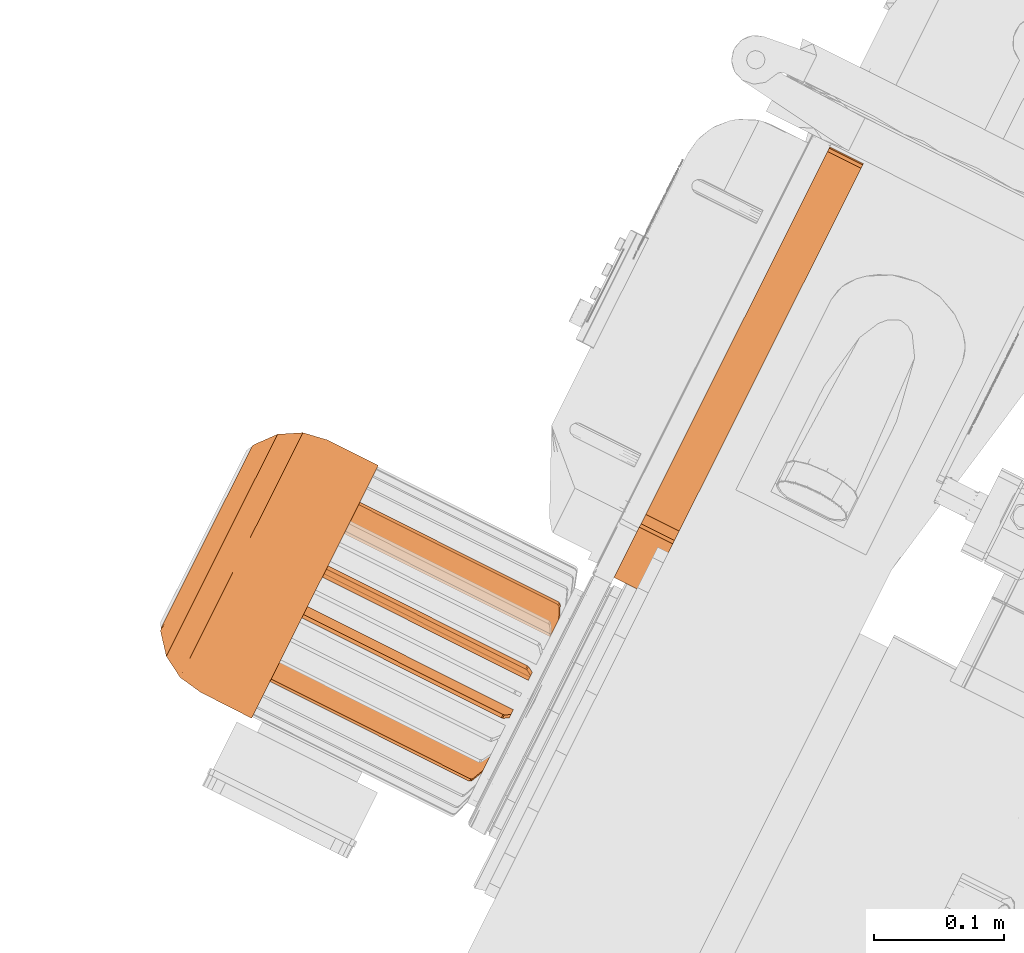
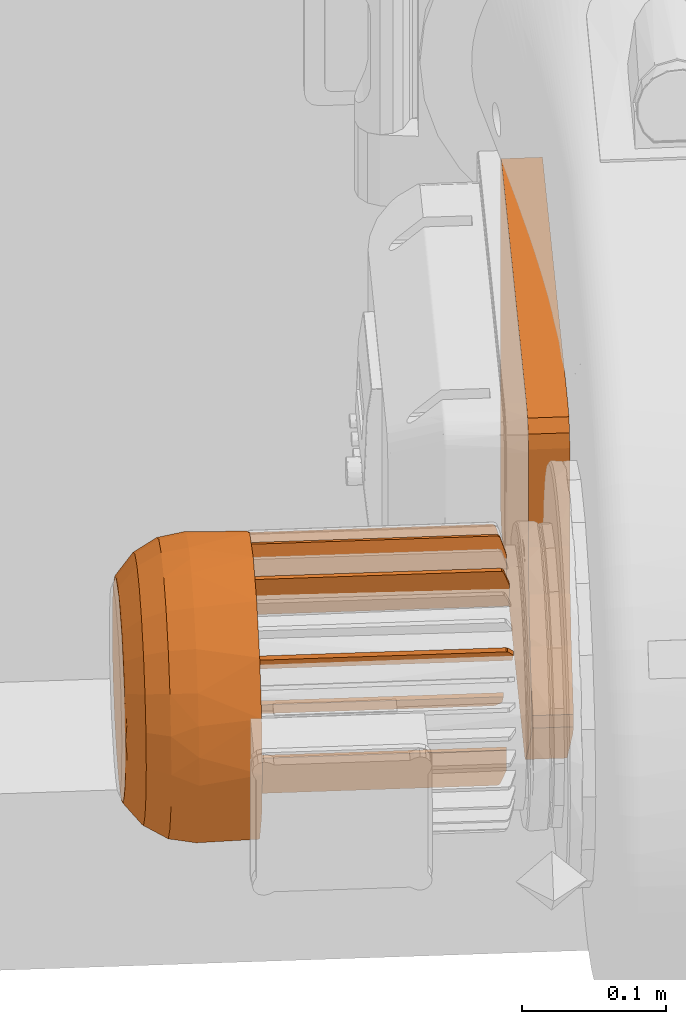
# One storey, part 181 of 206: 8 proxies.
"""IFC2X3 building model written with IfcOpenShell, lengths in metres."""

from ifc_helpers import new_model, si_unit, derived_unit, direction, frame, origin, place, context, subcontext, project, spatial, faceted_brep, source, transform, mapped, material, type_object, type_shapes, element, save


model = new_model("IFC2X3")

# Units and contexts
model_context = context("Model", 3, precision=5.2338327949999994e-05, world=origin(), true_north=direction((0.0, 1.0)))
body_context = subcontext(model_context, "Body", "Model", "MODEL_VIEW")
ifc_project = project(units=[si_unit("LENGTHUNIT", "METRE"), si_unit("AREAUNIT", "SQUARE_METRE"), si_unit("VOLUMEUNIT", "CUBIC_METRE"), si_unit("MASSUNIT", "GRAM", prefix="KILO"), si_unit("PLANEANGLEUNIT", "RADIAN"), derived_unit("THERMALTRANSMITTANCEUNIT", [(si_unit("MASSUNIT", "GRAM", prefix="KILO"), 1), (si_unit("THERMODYNAMICTEMPERATUREUNIT", "KELVIN"), -1), (si_unit("TIMEUNIT", "SECOND"), -3)])], contexts=[model_context])

# Site, building, storey
site_placement = place(None, frame((0.0, 0.0, 0.0), z_axis=(0.0, 0.0, 1.0), x_axis=(0.8939966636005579, -0.4480736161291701, 0.0)))
site = spatial("IfcSite", under=ifc_project, at=site_placement, Name="Default", CompositionType="ELEMENT")
building_placement = place(site_placement, origin())
building = spatial("IfcBuilding", under=site, at=building_placement, CompositionType="ELEMENT")
storey_placement = place(building_placement, origin())
storey = spatial("IfcBuildingStorey", under=building, at=storey_placement, Name="Erdgeschoss", CompositionType="ELEMENT", Elevation=0.0)

# Proxies
ifc_material_1 = material(Name="IfcSurfaceStyle #623543")
building_element_proxy_type_1 = type_object("IfcBuildingElementProxyType", Name="BuildingElementProxy 124:BuildingElementProxy 124", PredefinedType="NOTDEFINED", material=ifc_material_1)
shared_shape_1 = source(origin(), body_context, "Body", "Brep", [
    faceted_brep([(21.308483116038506, 4.186292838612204, 0.758362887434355), (21.308483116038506, 4.182203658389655, 0.7789205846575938), (21.308483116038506, 4.183350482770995, 0.7577776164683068), (21.308483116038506, 4.179261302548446, 0.7783353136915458), (21.304532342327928, 4.179799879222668, 0.7910051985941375), (21.301675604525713, 4.179393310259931, 0.793049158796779), (21.130911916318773, 4.186292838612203, 0.758362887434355), (21.130911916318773, 4.179393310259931, 0.7930491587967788), (21.302899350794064, 4.1794442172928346, 0.7927932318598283), (21.303910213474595, 4.179588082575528, 0.7920699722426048), (21.130911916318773, 4.183350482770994, 0.7577776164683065), (21.130911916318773, 4.176450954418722, 0.7924638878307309), (21.302899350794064, 4.176501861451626, 0.7922079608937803), (21.303910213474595, 4.1766457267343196, 0.7914847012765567), (21.304532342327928, 4.17685752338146, 0.7904199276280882), (21.301675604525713, 4.176450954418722, 0.7924638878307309), (21.301675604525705, 4.178902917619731, 0.7929516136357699)], [[[0, 1, 2]], [[2, 1, 3]], [[4, 1, 5]], [[5, 1, 0]], [[5, 0, 6]], [[6, 7, 5]], [[5, 8, 4]], [[4, 8, 9]], [[0, 2, 6]], [[6, 2, 10]], [[7, 6, 11]], [[11, 6, 10]], [[12, 13, 8]], [[8, 13, 9]], [[13, 14, 9]], [[9, 14, 4]], [[3, 1, 14]], [[14, 1, 4]], [[10, 2, 15]], [[15, 2, 3]], [[15, 3, 14]], [[13, 12, 14]], [[14, 12, 15]], [[15, 11, 10]], [[5, 7, 16]], [[16, 7, 11]], [[16, 11, 15]], [[15, 12, 16]], [[16, 12, 8]], [[16, 8, 5]]]),
])
type_shapes(building_element_proxy_type_1, [shared_shape_1])
proxy_1_placement = place(storey_placement, origin())
element("IfcBuildingElementProxy", 1, at=proxy_1_placement, inside=storey, type_object=building_element_proxy_type_1, material=ifc_material_1, Name="BuildingElementProxy 124", context=body_context, shape_type="MappedRepresentation", body=[
    mapped(shared_shape_1, transform((0.0, 0.0, 0.0), scale=1.0)),
])
building_element_proxy_type_2 = type_object("IfcBuildingElementProxyType", Name="BuildingElementProxy 126:BuildingElementProxy 126", PredefinedType="NOTDEFINED", material=ifc_material_1)
shared_shape_2 = source(origin(), body_context, "Body", "Brep", [
    faceted_brep([(21.03727812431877, 4.198958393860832, 0.7659323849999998), (21.03727812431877, 4.210191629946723, 0.7651289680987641), (21.03727812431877, 4.187725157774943, 0.765128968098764), (21.03727812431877, 4.166168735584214, 0.7587994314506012), (21.03727812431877, 4.231748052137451, 0.7587994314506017), (21.03727812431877, 4.147268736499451, 0.7466531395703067), (21.03727812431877, 4.250648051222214, 0.7466531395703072), (21.03727812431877, 4.1325563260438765, 0.7296741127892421), (21.03727812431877, 4.265360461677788, 0.7296741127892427), (21.03727812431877, 4.120829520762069, 0.6982333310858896), (21.03727812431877, 4.2746933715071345, 0.7092378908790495), (21.03727812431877, 4.277890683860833, 0.6870000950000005), (21.03727812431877, 4.123223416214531, 0.6647622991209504), (21.03727812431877, 4.2746933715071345, 0.6647622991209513), (21.03727812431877, 4.1325563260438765, 0.6443260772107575), (21.03727812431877, 4.265360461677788, 0.6443260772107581), (21.03727812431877, 4.147268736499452, 0.6273470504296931), (21.03727812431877, 4.250648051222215, 0.6273470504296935), (21.03727812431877, 4.166168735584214, 0.6152007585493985), (21.03727812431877, 4.231748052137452, 0.6152007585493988), (21.03727812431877, 4.187725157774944, 0.6088712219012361), (21.03727812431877, 4.210191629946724, 0.6088712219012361), (21.03727812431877, 4.198958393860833, 0.6080678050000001), (21.086911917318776, 4.214470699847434, 0.5791096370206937), (21.06762802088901, 4.213983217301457, 0.582500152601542), (21.086911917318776, 4.244238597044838, 0.5878502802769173), (21.06762802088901, 4.24281564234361, 0.5909661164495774), (21.086911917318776, 4.2703381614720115, 0.6046234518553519), (21.06762802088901, 4.268095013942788, 0.6072121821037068), (21.086911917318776, 4.29065496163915, 0.6280702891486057), (21.06762802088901, 4.2877733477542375, 0.6299221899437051), (21.086911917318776, 4.303543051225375, 0.656291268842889), (21.06762802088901, 4.300256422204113, 0.657256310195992), (21.086911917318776, 4.307958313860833, 0.6870000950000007), (21.06762802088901, 4.304532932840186, 0.6870000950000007), (21.086911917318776, 4.303543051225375, 0.7177089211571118), (21.06762802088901, 4.300256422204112, 0.7167438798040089), (21.086911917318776, 4.290654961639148, 0.745929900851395), (21.06762802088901, 4.2877733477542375, 0.7440780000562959), (21.086911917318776, 4.27033816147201, 0.7693767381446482), (21.06762802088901, 4.268095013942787, 0.7667880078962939), (21.086911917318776, 4.244238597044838, 0.7861499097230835), (21.06762802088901, 4.242815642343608, 0.7830340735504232), (21.086911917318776, 4.214470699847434, 0.7948905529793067), (21.06762802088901, 4.213983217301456, 0.7915000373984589), (21.086911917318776, 4.198958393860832, 0.796000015), (21.06762802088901, 4.183933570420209, 0.7915000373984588), (21.086911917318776, 4.1834460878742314, 0.7948905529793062), (21.086911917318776, 4.153678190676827, 0.7861499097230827), (21.086911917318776, 4.198958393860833, 0.5780001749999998), (21.06762802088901, 4.18393357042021, 0.5825001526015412), (21.050701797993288, 4.185336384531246, 0.5922569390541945), (21.050701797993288, 4.159195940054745, 0.5999324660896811), (21.038205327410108, 4.165461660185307, 0.6136524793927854), (21.038205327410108, 4.1461541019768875, 0.6260606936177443), (21.086911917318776, 4.183446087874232, 0.5791096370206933), (21.06762802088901, 4.155101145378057, 0.5909661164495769), (21.050701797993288, 4.136276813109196, 0.6146616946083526), (21.038205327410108, 4.131124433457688, 0.6434058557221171), (21.086911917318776, 4.153678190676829, 0.5878502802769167), (21.06762802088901, 4.129821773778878, 0.6072121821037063), (21.050701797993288, 4.1184357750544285, 0.6352513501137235), (21.038205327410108, 4.121590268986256, 0.6642827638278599), (21.038205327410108, 4.118324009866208, 0.6870000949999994), (21.038205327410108, 4.121590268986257, 0.7097174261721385), (21.038205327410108, 4.131124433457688, 0.7305943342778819), (21.038205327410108, 4.146154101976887, 0.7479394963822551), (21.038205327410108, 4.165461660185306, 0.7603477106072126), (21.038205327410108, 4.187482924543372, 0.7668137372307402), (21.038205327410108, 4.210433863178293, 0.7668137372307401), (21.086911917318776, 4.127578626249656, 0.6046234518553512), (21.06762802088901, 4.110143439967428, 0.6299221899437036), (21.050701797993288, 4.107118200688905, 0.6600333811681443), (21.086911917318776, 4.1072618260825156, 0.6280702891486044), (21.06762802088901, 4.0976603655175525, 0.6572563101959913), (21.050701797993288, 4.103240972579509, 0.6870000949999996), (21.086911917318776, 4.094373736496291, 0.656291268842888), (21.086911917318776, 4.090236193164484, 0.679224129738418), (21.06762802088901, 4.093383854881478, 0.6870000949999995), (21.086911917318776, 4.091067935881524, 0.7025124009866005), (21.06762802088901, 4.0976603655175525, 0.7167438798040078), (21.086911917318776, 4.096830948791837, 0.7250916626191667), (21.06762802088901, 4.110143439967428, 0.7440780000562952), (21.086911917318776, 4.1072618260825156, 0.7459299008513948), (21.06762802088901, 4.129821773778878, 0.7667880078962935), (21.086911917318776, 4.1275786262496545, 0.7693767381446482), (21.06762802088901, 4.1551011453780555, 0.783034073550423), (21.038205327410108, 4.187482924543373, 0.6071864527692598), (21.050701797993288, 4.212580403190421, 0.592256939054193), (21.038205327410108, 4.210433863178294, 0.6071864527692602), (21.038205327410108, 4.232455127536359, 0.6136524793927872), (21.038205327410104, 4.2517626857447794, 0.6260606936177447), (21.038205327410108, 4.266792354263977, 0.643405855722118), (21.038205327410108, 4.276326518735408, 0.664282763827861), (21.038205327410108, 4.2795927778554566, 0.6870000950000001), (21.038205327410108, 4.276326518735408, 0.7097174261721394), (21.038205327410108, 4.266792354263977, 0.7305943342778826), (21.038205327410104, 4.2517626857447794, 0.7479394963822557), (21.038205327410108, 4.232455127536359, 0.7603477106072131), (21.050701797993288, 4.107118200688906, 0.713966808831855), (21.050701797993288, 4.238720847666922, 0.5999324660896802), (21.050701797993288, 4.26163997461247, 0.6146616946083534), (21.050701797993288, 4.279481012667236, 0.6352513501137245), (21.050701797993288, 4.290798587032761, 0.6600333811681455), (21.050701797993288, 4.294675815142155, 0.6870000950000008), (21.050701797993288, 4.290798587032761, 0.7139668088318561), (21.050701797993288, 4.279481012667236, 0.7387488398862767), (21.050701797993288, 4.261639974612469, 0.7593384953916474), (21.050701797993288, 4.2387208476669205, 0.7740677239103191), (21.050701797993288, 4.212580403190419, 0.7817432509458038), (21.050701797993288, 4.1853363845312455, 0.781743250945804), (21.050701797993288, 4.159195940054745, 0.7740677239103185), (21.050701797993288, 4.136276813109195, 0.7593384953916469), (21.050701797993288, 4.1184357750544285, 0.7387488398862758), (21.130911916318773, 4.240670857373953, 0.7877028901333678), (21.130911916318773, 4.198958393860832, 0.796000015), (21.130911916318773, 4.276032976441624, 0.7640746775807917), (21.130911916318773, 4.2996611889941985, 0.7287125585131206), (21.130911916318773, 4.307958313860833, 0.6870000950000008), (21.130911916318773, 4.2996611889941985, 0.6452876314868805), (21.130911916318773, 4.276032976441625, 0.6099255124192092), (21.130911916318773, 4.240670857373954, 0.5862972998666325), (21.130911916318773, 4.198958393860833, 0.578000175), (21.130911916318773, 4.157245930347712, 0.5862972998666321), (21.130911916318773, 4.121883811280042, 0.6099255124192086), (21.130911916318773, 4.098255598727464, 0.6452876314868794), (21.130911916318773, 4.089958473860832, 0.6870000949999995), (21.130911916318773, 4.098255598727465, 0.7287125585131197), (21.130911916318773, 4.121883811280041, 0.7640746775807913), (21.130911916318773, 4.157245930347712, 0.7877028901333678)], [[[0, 1, 2]], [[2, 1, 3]], [[1, 4, 3]], [[3, 4, 5]], [[4, 6, 5]], [[5, 6, 7]], [[6, 8, 7]], [[7, 8, 9]], [[8, 10, 9]], [[9, 10, 11]], [[9, 11, 12]], [[12, 11, 13]], [[12, 13, 14]], [[14, 13, 15]], [[14, 15, 16]], [[16, 15, 17]], [[16, 17, 18]], [[18, 17, 19]], [[18, 19, 20]], [[20, 19, 21]], [[20, 21, 22]], [[23, 24, 25]], [[25, 24, 26]], [[25, 26, 27]], [[27, 26, 28]], [[27, 28, 29]], [[29, 28, 30]], [[29, 30, 31]], [[31, 30, 32]], [[31, 32, 33]], [[33, 32, 34]], [[33, 34, 35]], [[35, 34, 36]], [[35, 36, 37]], [[37, 36, 38]], [[37, 38, 39]], [[39, 38, 40]], [[39, 40, 41]], [[41, 40, 42]], [[41, 42, 43]], [[43, 42, 44]], [[43, 44, 45]], [[45, 44, 46]], [[45, 46, 47]], [[47, 46, 48]], [[23, 49, 24]], [[24, 49, 50]], [[24, 50, 51]], [[51, 50, 52]], [[51, 52, 53]], [[53, 52, 54]], [[53, 54, 16]], [[16, 54, 14]], [[49, 55, 50]], [[50, 55, 56]], [[50, 56, 52]], [[52, 56, 57]], [[52, 57, 54]], [[54, 57, 58]], [[54, 58, 14]], [[14, 58, 12]], [[55, 59, 56]], [[56, 59, 60]], [[56, 60, 57]], [[57, 60, 61]], [[57, 61, 58]], [[58, 61, 62]], [[58, 62, 12]], [[12, 62, 63]], [[12, 63, 9]], [[9, 63, 64]], [[9, 64, 7]], [[7, 64, 65]], [[7, 65, 5]], [[5, 65, 66]], [[5, 66, 3]], [[3, 66, 67]], [[3, 67, 2]], [[2, 67, 68]], [[2, 68, 0]], [[0, 68, 69]], [[0, 69, 1]], [[1, 69, 4]], [[59, 70, 60]], [[60, 70, 71]], [[60, 71, 61]], [[61, 71, 72]], [[61, 72, 62]], [[62, 72, 63]], [[70, 73, 71]], [[71, 73, 74]], [[71, 74, 72]], [[72, 74, 75]], [[72, 75, 63]], [[63, 75, 64]], [[73, 76, 74]], [[74, 76, 77]], [[74, 77, 78]], [[78, 77, 79]], [[78, 79, 80]], [[80, 79, 81]], [[80, 81, 82]], [[82, 81, 83]], [[82, 83, 84]], [[84, 83, 85]], [[84, 85, 86]], [[86, 85, 48]], [[86, 48, 46]], [[16, 18, 53]], [[53, 18, 87]], [[53, 87, 51]], [[51, 87, 88]], [[51, 88, 24]], [[24, 88, 26]], [[18, 20, 87]], [[87, 20, 22]], [[87, 22, 89]], [[89, 22, 21]], [[89, 21, 90]], [[90, 21, 19]], [[90, 19, 91]], [[91, 19, 17]], [[91, 17, 92]], [[92, 17, 15]], [[92, 15, 93]], [[93, 15, 13]], [[93, 13, 94]], [[94, 13, 11]], [[94, 11, 95]], [[95, 11, 10]], [[95, 10, 96]], [[96, 10, 8]], [[96, 8, 97]], [[97, 8, 6]], [[97, 6, 98]], [[98, 6, 4]], [[98, 4, 69]], [[74, 78, 75]], [[75, 78, 99]], [[75, 99, 64]], [[64, 99, 65]], [[26, 100, 28]], [[28, 100, 101]], [[28, 101, 30]], [[30, 101, 102]], [[30, 102, 32]], [[32, 102, 103]], [[32, 103, 34]], [[34, 103, 104]], [[34, 104, 36]], [[36, 104, 105]], [[36, 105, 38]], [[38, 105, 106]], [[38, 106, 40]], [[40, 106, 107]], [[40, 107, 42]], [[42, 107, 108]], [[42, 108, 44]], [[44, 108, 109]], [[44, 109, 46]], [[46, 109, 110]], [[46, 110, 86]], [[86, 110, 111]], [[86, 111, 84]], [[84, 111, 112]], [[84, 112, 82]], [[82, 112, 113]], [[82, 113, 80]], [[80, 113, 99]], [[80, 99, 78]], [[88, 89, 100]], [[100, 89, 90]], [[100, 90, 101]], [[101, 90, 91]], [[101, 91, 102]], [[102, 91, 92]], [[102, 92, 103]], [[103, 92, 93]], [[103, 93, 104]], [[104, 93, 94]], [[104, 94, 105]], [[105, 94, 95]], [[105, 95, 106]], [[106, 95, 96]], [[106, 96, 107]], [[107, 96, 97]], [[107, 97, 108]], [[108, 97, 98]], [[108, 98, 109]], [[109, 98, 69]], [[109, 69, 110]], [[110, 69, 68]], [[110, 68, 111]], [[111, 68, 67]], [[111, 67, 112]], [[112, 67, 66]], [[112, 66, 113]], [[113, 66, 65]], [[113, 65, 99]], [[100, 26, 88]], [[89, 88, 87]], [[39, 41, 114]], [[114, 41, 43]], [[114, 43, 115]], [[115, 43, 45]], [[115, 45, 47]], [[114, 116, 39]], [[39, 116, 37]], [[116, 117, 37]], [[37, 117, 35]], [[117, 118, 35]], [[35, 118, 33]], [[33, 118, 31]], [[31, 118, 119]], [[31, 119, 29]], [[29, 119, 120]], [[29, 120, 27]], [[27, 120, 121]], [[27, 121, 25]], [[25, 121, 23]], [[121, 122, 23]], [[23, 122, 49]], [[49, 122, 55]], [[55, 122, 123]], [[55, 123, 59]], [[59, 123, 70]], [[123, 124, 70]], [[70, 124, 73]], [[124, 125, 73]], [[73, 125, 76]], [[125, 126, 76]], [[76, 126, 77]], [[77, 126, 79]], [[79, 126, 127]], [[79, 127, 81]], [[81, 127, 83]], [[127, 128, 83]], [[83, 128, 85]], [[128, 129, 85]], [[85, 129, 48]], [[48, 129, 47]], [[47, 129, 115]], [[115, 129, 114]], [[114, 129, 116]], [[129, 128, 116]], [[116, 128, 117]], [[128, 127, 117]], [[117, 127, 118]], [[127, 126, 118]], [[118, 126, 119]], [[126, 125, 119]], [[119, 125, 120]], [[125, 124, 120]], [[120, 124, 121]], [[124, 123, 121]], [[121, 123, 122]]]),
])
type_shapes(building_element_proxy_type_2, [shared_shape_2])
proxy_2_placement = place(storey_placement, origin())
element("IfcBuildingElementProxy", 2, at=proxy_2_placement, inside=storey, type_object=building_element_proxy_type_2, material=ifc_material_1, Name="BuildingElementProxy 126", context=body_context, shape_type="MappedRepresentation", body=[
    mapped(shared_shape_2, transform((0.0, 0.0, 0.0), scale=1.0)),
])
building_element_proxy_type_3 = type_object("IfcBuildingElementProxyType", Name="BuildingElementProxy 127:BuildingElementProxy 127", PredefinedType="NOTDEFINED", material=ifc_material_1)
shared_shape_3 = source(origin(), body_context, "Body", "Brep", [
    faceted_brep([(21.308483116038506, 4.148780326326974, 0.739299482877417), (21.308483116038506, 4.133959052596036, 0.7541207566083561), (21.308483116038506, 4.146659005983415, 0.7371781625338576), (21.308483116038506, 4.131837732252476, 0.7519994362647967), (21.304532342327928, 4.125246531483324, 0.76283327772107), (21.301675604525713, 4.123772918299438, 0.7643068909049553), (21.130911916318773, 4.148780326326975, 0.739299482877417), (21.130911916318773, 4.123772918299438, 0.7643068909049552), (21.302899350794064, 4.123957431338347, 0.7641223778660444), (21.303910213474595, 4.124478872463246, 0.7636009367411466), (21.130911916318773, 4.146659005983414, 0.7371781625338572), (21.130911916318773, 4.121651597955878, 0.7621855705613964), (21.301675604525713, 4.121651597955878, 0.7621855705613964), (21.302899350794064, 4.121836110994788, 0.7620010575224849), (21.303910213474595, 4.122357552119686, 0.7614796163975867), (21.304532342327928, 4.123125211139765, 0.7607119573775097)], [[[0, 1, 2]], [[2, 1, 3]], [[4, 1, 5]], [[5, 1, 0]], [[5, 0, 6]], [[6, 7, 5]], [[5, 8, 4]], [[4, 8, 9]], [[0, 2, 6]], [[6, 2, 10]], [[7, 6, 11]], [[11, 6, 10]], [[7, 11, 5]], [[5, 11, 12]], [[12, 13, 5]], [[5, 13, 8]], [[13, 14, 8]], [[8, 14, 9]], [[14, 15, 9]], [[9, 15, 4]], [[3, 1, 15]], [[15, 1, 4]], [[10, 2, 12]], [[12, 2, 3]], [[12, 3, 15]], [[14, 13, 15]], [[15, 13, 12]], [[12, 11, 10]]]),
])
type_shapes(building_element_proxy_type_3, [shared_shape_3])
proxy_3_placement = place(storey_placement, origin())
element("IfcBuildingElementProxy", 3, at=proxy_3_placement, inside=storey, type_object=building_element_proxy_type_3, material=ifc_material_1, Name="BuildingElementProxy 127", context=body_context, shape_type="MappedRepresentation", body=[
    mapped(shared_shape_3, transform((0.0, 0.0, 0.0), scale=1.0)),
])
building_element_proxy_type_4 = type_object("IfcBuildingElementProxyType", Name="BuildingElementProxy 128:BuildingElementProxy 128", PredefinedType="NOTDEFINED", material=ifc_material_1)
shared_shape_4 = source(origin(), body_context, "Body", "Brep", [
    faceted_brep([(21.308483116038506, 4.211623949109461, 0.6156373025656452), (21.308483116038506, 4.215713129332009, 0.5950796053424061), (21.308483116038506, 4.21456630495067, 0.6162225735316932), (21.308483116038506, 4.218655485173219, 0.5956648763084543), (21.304532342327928, 4.218116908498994, 0.5829949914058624), (21.301675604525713, 4.218523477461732, 0.580951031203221), (21.130911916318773, 4.21162394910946, 0.6156373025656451), (21.130911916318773, 4.218523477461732, 0.5809510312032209), (21.302899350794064, 4.218472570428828, 0.5812069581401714), (21.303910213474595, 4.218328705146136, 0.5819302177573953), (21.130911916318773, 4.2145663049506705, 0.6162225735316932), (21.130911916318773, 4.2214658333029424, 0.5815363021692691), (21.301675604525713, 4.2214658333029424, 0.581536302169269), (21.302899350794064, 4.221414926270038, 0.5817922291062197), (21.303910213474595, 4.221271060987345, 0.5825154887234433), (21.304532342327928, 4.221059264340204, 0.5835802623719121)], [[[0, 1, 2]], [[2, 1, 3]], [[4, 1, 5]], [[5, 1, 0]], [[5, 0, 6]], [[6, 7, 5]], [[5, 8, 4]], [[4, 8, 9]], [[0, 2, 6]], [[6, 2, 10]], [[7, 6, 11]], [[11, 6, 10]], [[7, 11, 5]], [[5, 11, 12]], [[12, 13, 5]], [[5, 13, 8]], [[13, 14, 8]], [[8, 14, 9]], [[14, 15, 9]], [[9, 15, 4]], [[3, 1, 15]], [[15, 1, 4]], [[10, 2, 12]], [[12, 2, 3]], [[12, 3, 15]], [[14, 13, 15]], [[15, 13, 12]], [[12, 11, 10]]]),
])
type_shapes(building_element_proxy_type_4, [shared_shape_4])
proxy_4_placement = place(storey_placement, origin())
element("IfcBuildingElementProxy", 4, at=proxy_4_placement, inside=storey, type_object=building_element_proxy_type_4, material=ifc_material_1, Name="BuildingElementProxy 128", context=body_context, shape_type="MappedRepresentation", body=[
    mapped(shared_shape_4, transform((0.0, 0.0, 0.0), scale=1.0)),
])
ifc_material_2 = material(Name="IfcSurfaceStyle #626231")
building_element_proxy_type_5 = type_object("IfcBuildingElementProxyType", Name="BuildingElementProxy 129:BuildingElementProxy 129", PredefinedType="NOTDEFINED", material=ifc_material_2)
shared_shape_5 = source(origin(), body_context, "Body", "Brep", [
    faceted_brep([(21.36104787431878, 4.397257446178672, 0.4783166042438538), (21.36104787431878, 4.402947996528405, 0.47756742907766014), (21.36104787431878, 4.3874011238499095, 0.4840071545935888), (21.36104787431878, 4.338083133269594, 0.6141548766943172), (21.36104787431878, 4.31814643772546, 0.5532618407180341), (21.36104787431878, 4.317098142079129, 0.5832312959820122), (21.36104787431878, 4.312592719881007, 0.5626243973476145), (21.36104787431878, 4.312212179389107, 0.5735035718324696), (21.36104787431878, 4.391954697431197, 0.4805130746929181), (21.36104787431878, 4.351168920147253, 0.6491605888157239), (21.36104787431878, 4.667568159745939, 0.4775674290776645), (21.36104787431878, 4.683558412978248, 0.49355768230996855), (21.36104787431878, 4.675563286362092, 0.4797097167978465), (21.36104787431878, 4.681416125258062, 0.4855625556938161), (21.36104787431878, 4.683558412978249, 0.7834142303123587), (21.36104787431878, 4.35561473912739, 0.6862668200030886), (21.36104787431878, 4.675563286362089, 0.7914093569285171), (21.36104787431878, 4.6824872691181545, 0.7874117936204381), (21.36104787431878, 4.6795608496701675, 0.7903382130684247), (21.36104787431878, 4.377601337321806, 0.7914093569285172), (21.36104787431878, 4.35561473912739, 0.7694227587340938), (21.36104787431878, 4.366608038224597, 0.7884637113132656), (21.36104787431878, 4.358560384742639, 0.7804160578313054), (21.332127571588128, 4.675563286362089, 0.791409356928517), (21.332127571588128, 4.6795608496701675, 0.7903382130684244), (21.332127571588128, 4.6824872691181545, 0.7874117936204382), (21.332127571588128, 4.683558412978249, 0.7834142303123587), (21.332127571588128, 4.683558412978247, 0.49355768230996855), (21.332127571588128, 4.681416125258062, 0.48556255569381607), (21.332127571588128, 4.675563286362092, 0.47970971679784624), (21.332127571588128, 4.667568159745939, 0.47756742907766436), (21.34672805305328, 4.402947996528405, 0.47756742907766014), (21.332127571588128, 4.402947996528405, 0.47756742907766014), (21.332127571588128, 4.397257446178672, 0.4783166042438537), (21.332127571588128, 4.391954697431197, 0.480513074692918), (21.332127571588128, 4.3874011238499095, 0.48400715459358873), (21.332127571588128, 4.31814643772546, 0.553261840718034), (21.332127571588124, 4.35561473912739, 0.6862668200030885), (21.332127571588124, 4.377601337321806, 0.7914093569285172), (21.332127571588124, 4.35561473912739, 0.7694227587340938), (21.332127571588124, 4.366608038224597, 0.7884637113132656), (21.332127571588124, 4.358560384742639, 0.7804160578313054), (21.332127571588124, 4.351168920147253, 0.6491605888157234), (21.332127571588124, 4.338083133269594, 0.6141548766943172), (21.332127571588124, 4.317098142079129, 0.5832312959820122), (21.332127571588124, 4.312212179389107, 0.5735035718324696), (21.332127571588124, 4.312592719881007, 0.5626243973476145)], [[[0, 1, 2]], [[2, 1, 3]], [[2, 3, 4]], [[4, 3, 5]], [[4, 5, 6]], [[6, 5, 7]], [[2, 8, 0]], [[3, 1, 9]], [[9, 1, 10]], [[9, 10, 11]], [[11, 10, 12]], [[11, 12, 13]], [[11, 14, 9]], [[9, 14, 15]], [[15, 14, 16]], [[16, 14, 17]], [[16, 17, 18]], [[16, 19, 15]], [[15, 19, 20]], [[21, 22, 19]], [[19, 22, 20]], [[16, 18, 23]], [[23, 18, 24]], [[18, 17, 24]], [[24, 17, 25]], [[17, 14, 25]], [[25, 14, 26]], [[11, 27, 14]], [[14, 27, 26]], [[11, 13, 27]], [[27, 13, 28]], [[13, 12, 28]], [[28, 12, 29]], [[12, 10, 29]], [[29, 10, 30]], [[1, 31, 10]], [[10, 31, 30]], [[31, 32, 30]], [[1, 0, 31]], [[31, 0, 33]], [[31, 33, 32]], [[33, 0, 34]], [[34, 0, 8]], [[34, 8, 35]], [[35, 8, 2]], [[4, 36, 2]], [[2, 36, 35]], [[24, 26, 23]], [[23, 26, 37]], [[23, 37, 38]], [[38, 37, 39]], [[38, 39, 40]], [[40, 39, 41]], [[24, 25, 26]], [[37, 26, 42]], [[42, 26, 27]], [[42, 27, 30]], [[30, 27, 28]], [[30, 28, 29]], [[30, 32, 42]], [[42, 32, 43]], [[33, 34, 32]], [[32, 34, 35]], [[32, 35, 43]], [[43, 35, 36]], [[43, 36, 44]], [[44, 36, 45]], [[36, 46, 45]], [[4, 6, 36]], [[36, 6, 46]], [[6, 7, 46]], [[46, 7, 45]], [[7, 5, 45]], [[45, 5, 44]], [[44, 5, 43]], [[43, 5, 3]], [[43, 3, 42]], [[42, 3, 9]], [[42, 9, 37]], [[37, 9, 15]], [[20, 39, 15]], [[15, 39, 37]], [[20, 22, 39]], [[39, 22, 41]], [[22, 21, 41]], [[41, 21, 40]], [[21, 19, 40]], [[40, 19, 38]], [[16, 23, 19]], [[19, 23, 38]]]),
])
type_shapes(building_element_proxy_type_5, [shared_shape_5])
proxy_5_placement = place(storey_placement, origin())
element("IfcBuildingElementProxy", 5, at=proxy_5_placement, inside=storey, type_object=building_element_proxy_type_5, material=ifc_material_2, Name="BuildingElementProxy 129", context=body_context, shape_type="MappedRepresentation", body=[
    mapped(shared_shape_5, transform((0.0, 0.0, 0.0), scale=1.0)),
])
building_element_proxy_type_6 = type_object("IfcBuildingElementProxyType", Name="BuildingElementProxy 130:BuildingElementProxy 130", PredefinedType="NOTDEFINED", material=ifc_material_1)
shared_shape_6 = source(origin(), body_context, "Body", "Brep", [
    faceted_brep([(21.308483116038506, 4.214566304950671, 0.7577776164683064), (21.308483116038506, 4.218655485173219, 0.7783353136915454), (21.308483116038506, 4.211623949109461, 0.758362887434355), (21.308483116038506, 4.215713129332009, 0.7789205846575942), (21.304532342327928, 4.221059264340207, 0.7904199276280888), (21.301675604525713, 4.221465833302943, 0.7924638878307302), (21.130911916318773, 4.2145663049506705, 0.7577776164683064), (21.130911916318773, 4.221465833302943, 0.7924638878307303), (21.302899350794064, 4.221414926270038, 0.7922079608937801), (21.303910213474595, 4.2212710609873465, 0.791484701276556), (21.130911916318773, 4.211623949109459, 0.7583628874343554), (21.130911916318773, 4.218523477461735, 0.7930491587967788), (21.302899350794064, 4.218472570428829, 0.7927932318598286), (21.303910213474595, 4.218328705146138, 0.7920699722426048), (21.304532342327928, 4.218116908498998, 0.7910051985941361), (21.301675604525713, 4.218523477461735, 0.7930491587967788), (21.301675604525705, 4.220975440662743, 0.7925614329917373)], [[[0, 1, 2]], [[2, 1, 3]], [[4, 1, 5]], [[5, 1, 0]], [[5, 0, 6]], [[6, 7, 5]], [[5, 8, 4]], [[4, 8, 9]], [[0, 2, 6]], [[6, 2, 10]], [[7, 6, 11]], [[11, 6, 10]], [[12, 13, 8]], [[8, 13, 9]], [[13, 14, 9]], [[9, 14, 4]], [[3, 1, 14]], [[14, 1, 4]], [[10, 2, 15]], [[15, 2, 3]], [[15, 3, 14]], [[13, 12, 14]], [[14, 12, 15]], [[15, 11, 10]], [[5, 7, 16]], [[16, 7, 11]], [[16, 11, 15]], [[15, 12, 16]], [[16, 12, 8]], [[16, 8, 5]]]),
])
type_shapes(building_element_proxy_type_6, [shared_shape_6])
proxy_6_placement = place(storey_placement, origin())
element("IfcBuildingElementProxy", 6, at=proxy_6_placement, inside=storey, type_object=building_element_proxy_type_6, material=ifc_material_1, Name="BuildingElementProxy 130", context=body_context, shape_type="MappedRepresentation", body=[
    mapped(shared_shape_6, transform((0.0, 0.0, 0.0), scale=1.0)),
])
building_element_proxy_type_7 = type_object("IfcBuildingElementProxyType", Name="BuildingElementProxy 131:BuildingElementProxy 131", PredefinedType="NOTDEFINED", material=ifc_material_1)
shared_shape_7 = source(origin(), body_context, "Body", "Brep", [
    faceted_brep([(21.308483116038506, 4.251257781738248, 0.7371781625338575), (21.308483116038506, 4.266079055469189, 0.7519994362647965), (21.308483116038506, 4.2491364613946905, 0.7392994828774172), (21.308483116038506, 4.263957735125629, 0.7541207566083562), (21.304532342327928, 4.274791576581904, 0.7607119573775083), (21.301675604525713, 4.276265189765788, 0.7621855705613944), (21.130911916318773, 4.251257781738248, 0.737178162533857), (21.130911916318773, 4.276265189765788, 0.7621855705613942), (21.302899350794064, 4.2760806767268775, 0.7620010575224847), (21.303910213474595, 4.275559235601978, 0.7614796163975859), (21.130911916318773, 4.249136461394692, 0.7392994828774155), (21.130911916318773, 4.274143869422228, 0.7643068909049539), (21.301675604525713, 4.274143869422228, 0.7643068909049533), (21.302899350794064, 4.273959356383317, 0.764122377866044), (21.303910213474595, 4.27343791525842, 0.7636009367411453), (21.304532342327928, 4.272670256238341, 0.762833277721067)], [[[0, 1, 2]], [[2, 1, 3]], [[4, 1, 5]], [[5, 1, 0]], [[5, 0, 6]], [[6, 7, 5]], [[5, 8, 4]], [[4, 8, 9]], [[0, 2, 6]], [[6, 2, 10]], [[7, 6, 11]], [[11, 6, 10]], [[7, 11, 5]], [[5, 11, 12]], [[12, 13, 5]], [[5, 13, 8]], [[13, 14, 8]], [[8, 14, 9]], [[14, 15, 9]], [[9, 15, 4]], [[3, 1, 15]], [[15, 1, 4]], [[10, 2, 12]], [[12, 2, 3]], [[12, 3, 15]], [[14, 13, 15]], [[15, 13, 12]], [[12, 11, 10]]]),
])
type_shapes(building_element_proxy_type_7, [shared_shape_7])
proxy_7_placement = place(storey_placement, origin())
element("IfcBuildingElementProxy", 7, at=proxy_7_placement, inside=storey, type_object=building_element_proxy_type_7, material=ifc_material_1, Name="BuildingElementProxy 131", context=body_context, shape_type="MappedRepresentation", body=[
    mapped(shared_shape_7, transform((0.0, 0.0, 0.0), scale=1.0)),
])
building_element_proxy_type_8 = type_object("IfcBuildingElementProxyType", Name="BuildingElementProxy 133:BuildingElementProxy 133", PredefinedType="NOTDEFINED", material=ifc_material_1)
shared_shape_8 = source(origin(), body_context, "Body", "Brep", [
    faceted_brep([(21.308483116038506, 4.24913646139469, 0.6347007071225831), (21.308483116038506, 4.263957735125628, 0.619879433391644), (21.308483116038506, 4.251257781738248, 0.6368220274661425), (21.308483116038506, 4.266079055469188, 0.6220007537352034), (21.304532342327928, 4.2726702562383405, 0.6111669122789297), (21.301675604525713, 4.274143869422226, 0.6096932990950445), (21.130911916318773, 4.24913646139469, 0.6347007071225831), (21.130911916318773, 4.274143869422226, 0.6096932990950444), (21.302899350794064, 4.273959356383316, 0.6098778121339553), (21.303910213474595, 4.273437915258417, 0.6103992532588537), (21.130911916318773, 4.251257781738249, 0.6368220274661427), (21.130911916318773, 4.276265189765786, 0.6118146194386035), (21.301675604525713, 4.276265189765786, 0.611814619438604), (21.302899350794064, 4.276080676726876, 0.6119991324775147), (21.303910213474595, 4.275559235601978, 0.612520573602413), (21.304532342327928, 4.274791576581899, 0.6132882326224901)], [[[0, 1, 2]], [[2, 1, 3]], [[4, 1, 5]], [[5, 1, 0]], [[5, 0, 6]], [[6, 7, 5]], [[5, 8, 4]], [[4, 8, 9]], [[0, 2, 6]], [[6, 2, 10]], [[7, 6, 11]], [[11, 6, 10]], [[7, 11, 5]], [[5, 11, 12]], [[12, 13, 5]], [[5, 13, 8]], [[13, 14, 8]], [[8, 14, 9]], [[14, 15, 9]], [[9, 15, 4]], [[3, 1, 15]], [[15, 1, 4]], [[10, 2, 12]], [[12, 2, 3]], [[12, 3, 15]], [[14, 13, 15]], [[15, 13, 12]], [[12, 11, 10]]]),
])
type_shapes(building_element_proxy_type_8, [shared_shape_8])
proxy_8_placement = place(storey_placement, origin())
element("IfcBuildingElementProxy", 8, at=proxy_8_placement, inside=storey, type_object=building_element_proxy_type_8, material=ifc_material_1, Name="BuildingElementProxy 133", context=body_context, shape_type="MappedRepresentation", body=[
    mapped(shared_shape_8, transform((0.0, 0.0, 0.0), scale=1.0)),
])

save(model, "model.ifc")
